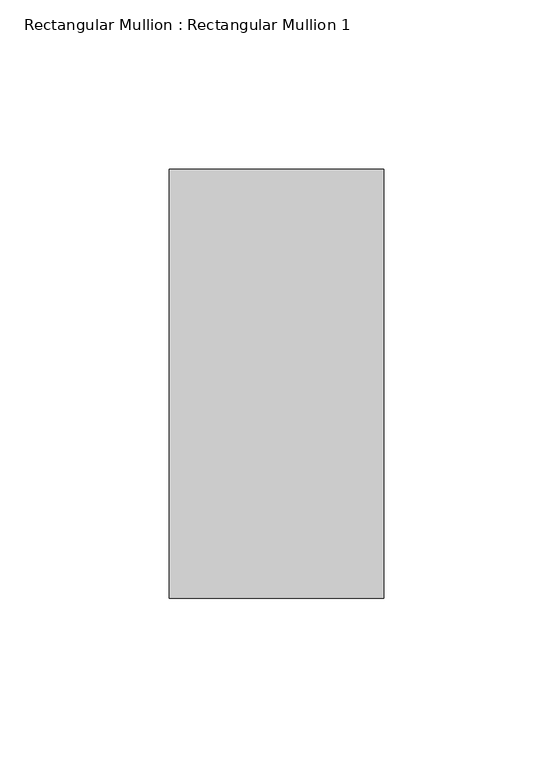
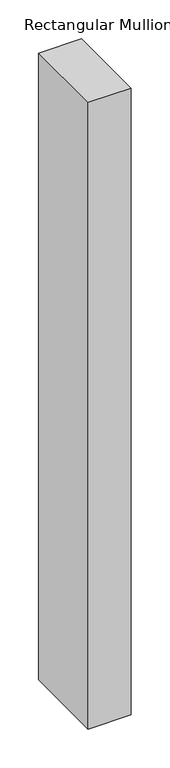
"""IFC4 building model written with IfcOpenShell, lengths in millimetres: member geometry, Rectangular Mullion : Rectangular Mullion 1."""

import ifcopenshell
import ifcopenshell.guid

model = None  # the IFC model being written
_history = None  # IfcOwnerHistory: only IFC2X3 demands one
_inside = {}  # id of a spatial element -> (the spatial element, [elements in it])
_under = {}  # id of a project, library or spatial element -> (it, [spatial elements below it])
_declared = {}  # id of a project -> (the project, [libraries it declares])
_typed = {}  # id of a type object -> (the type object, [elements of that type])
_made_of = {}  # id of a material, layer set ... -> (it, [elements and type objects made of it])


def new_model(schema):
    """Start an empty IFC model of exactly this schema.

    Asked for "IFC4X3", IfcOpenShell would pick the latest addendum, in which some entities
    have other attributes; the version numbers below select the first issue.
    IFC2X3 requires an IfcOwnerHistory on every rooted entity: one is made here for all.
    """
    global model, _history
    if schema == "IFC4X3":
        model = ifcopenshell.file(schema_version=(4, 3, 0, 0))
    else:
        model = ifcopenshell.file(schema=schema)
    _inside.clear()
    _under.clear()
    _declared.clear()
    _typed.clear()
    _made_of.clear()
    _history = None
    if model.schema == "IFC2X3":
        org = make("IfcOrganization", Name="unknown")
        user = make(
            "IfcPersonAndOrganization",
            ThePerson=make("IfcPerson", FamilyName="unknown"),
            TheOrganization=org,
        )
        app = make(
            "IfcApplication",
            ApplicationDeveloper=org,
            Version="unknown",
            ApplicationFullName="unknown",
            ApplicationIdentifier="unknown",
        )
        _history = make(
            "IfcOwnerHistory",
            OwningUser=user,
            OwningApplication=app,
            ChangeAction="ADDED",
            CreationDate=0,
        )
    return model


def make(cls, **values):
    """One entity of the class cls with the attributes given. An attribute that is None is left unset."""
    return model.create_entity(
        cls, **{name: value for name, value in values.items() if value is not None}
    )


def rooted(cls, **values):
    """An entity with a GlobalId (a new one), such as an element, a storey or a relation."""
    return make(cls, GlobalId=ifcopenshell.guid.new(), OwnerHistory=_history, **values)


def si_unit(unit_type, name, prefix=None):
    """IfcSIUnit, for example si_unit("LENGTHUNIT", "METRE", prefix="MILLI")."""
    return make("IfcSIUnit", UnitType=unit_type, Prefix=prefix, Name=name)


def assignment(units):
    """IfcUnitAssignment: the units of a project."""
    return None if units is None else make("IfcUnitAssignment", Units=units)


def point(xyz):
    """IfcCartesianPoint."""
    return None if xyz is None else make("IfcCartesianPoint", Coordinates=xyz)


def direction(xyz):
    """IfcDirection."""
    return None if xyz is None else make("IfcDirection", DirectionRatios=xyz)


def frame(location, z_axis=None, x_axis=None):
    """IfcAxis2Placement3D, a coordinate frame: its origin and axes. An axis left out is left unset."""
    return make(
        "IfcAxis2Placement3D",
        Location=point(location),
        Axis=direction(z_axis),
        RefDirection=direction(x_axis),
    )


def origin():
    """The frame at (0, 0, 0) with its axes left unset."""
    return frame((0.0, 0.0, 0.0))


def place(relative_to, where):
    """IfcLocalPlacement: puts the frame where relative to a parent placement (None: the world)."""
    return make(
        "IfcLocalPlacement", PlacementRelTo=relative_to, RelativePlacement=where
    )


def context(
    kind, dimensions, precision=None, world=None, true_north=None, identifier=None
):
    """IfcGeometricRepresentationContext, for example the 3D "Model" context."""
    return make(
        "IfcGeometricRepresentationContext",
        ContextIdentifier=identifier,
        ContextType=kind,
        CoordinateSpaceDimension=dimensions,
        Precision=precision,
        WorldCoordinateSystem=world,
        TrueNorth=true_north,
    )


def project(units=None, contexts=None):
    """IfcProject with its units and contexts."""
    return rooted(
        "IfcProject",
        Name="project",
        RepresentationContexts=contexts,
        UnitsInContext=assignment(units),
    )


def spatial(cls, under=None, at=None, **own):
    """A site, building, storey or space (cls), placed at a placement, below another one or the project."""
    s = rooted(cls, ObjectPlacement=at, **own)
    if under is not None:
        _under.setdefault(under.id(), (under, []))[1].append(s)
    return s


def polyline(points):
    """IfcPolyline through the points."""
    return make("IfcPolyline", Points=[point(p) for p in points])


def outline(outer, holes=None, kind="AREA"):
    """IfcArbitraryClosedProfileDef: a profile drawn as a closed curve; with holes, ...WithVoids."""
    if holes is None:
        return make("IfcArbitraryClosedProfileDef", ProfileType=kind, OuterCurve=outer)
    return make(
        "IfcArbitraryProfileDefWithVoids",
        ProfileType=kind,
        OuterCurve=outer,
        InnerCurves=holes,
    )


def extrude(swept, where, along, depth):
    """IfcExtrudedAreaSolid: the profile swept, set in the frame where, extruded along a direction by depth."""
    return make(
        "IfcExtrudedAreaSolid",
        SweptArea=swept,
        Position=where,
        ExtrudedDirection=direction(along),
        Depth=depth,
    )


def shape(context_of_items, identifier, shape_type, items):
    """IfcShapeRepresentation: the items that make up one representation, for example the "Body"."""
    return make(
        "IfcShapeRepresentation",
        ContextOfItems=context_of_items,
        RepresentationIdentifier=identifier,
        RepresentationType=shape_type,
        Items=items,
    )


def source(mapping_origin, context_of_items, identifier, shape_type, items):
    """IfcRepresentationMap: a shape defined once, which mapped items show again and again."""
    return make(
        "IfcRepresentationMap",
        MappingOrigin=mapping_origin,
        MappedRepresentation=shape(context_of_items, identifier, shape_type, items),
    )


def transform(
    local_origin,
    x_axis=None,
    y_axis=None,
    z_axis=None,
    scale=None,
    scale2=None,
    scale3=None,
    uniform=True,
):
    """IfcCartesianTransformationOperator3D, or its non-uniform kind. x_axis, y_axis, z_axis: its Axis1, 2, 3."""
    if uniform:
        return make(
            "IfcCartesianTransformationOperator3D",
            Axis1=direction(x_axis),
            Axis2=direction(y_axis),
            LocalOrigin=point(local_origin),
            Scale=scale,
            Axis3=direction(z_axis),
        )
    return make(
        "IfcCartesianTransformationOperator3DnonUniform",
        Axis1=direction(x_axis),
        Axis2=direction(y_axis),
        LocalOrigin=point(local_origin),
        Scale=scale,
        Axis3=direction(z_axis),
        Scale2=scale2,
        Scale3=scale3,
    )


def mapped(mapping_source, mapping_target):
    """IfcMappedItem: shows the shape of a source again, moved by a transform."""
    return make(
        "IfcMappedItem", MappingSource=mapping_source, MappingTarget=mapping_target
    )


def made_of(thing, what):
    """Note that an element or type object is made of a material, layer set ...; save() writes the relation."""
    if what is not None:
        _made_of.setdefault(what.id(), (what, []))[1].append(thing)
    return thing


def element(
    cls,
    number,
    at=None,
    inside=None,
    cuts=None,
    type_object=None,
    material=None,
    context=None,
    identifier="Body",
    shape_type=None,
    held_by="IfcProductDefinitionShape",
    body=None,
    shapes=None,
    **own,
):
    """One element of the class cls, such as IfcWall. Its Tag is "e" and its number.

    at: its placement. inside: the storey or other place that contains it. cuts: it is an
    opening in that element (IfcRelVoidsElement). A single representation is given by context,
    identifier, shape_type and body (its items); several are given by shapes. held_by: the class
    of the entity that holds the representations. save() writes the other relations.
    """
    e = rooted(cls, Tag="e%d" % number, ObjectPlacement=at, **own)
    if body is not None:
        shapes = [shape(context, identifier, shape_type, body)]
    if shapes is not None:
        e.Representation = make(held_by, Representations=shapes)
    if inside is not None:
        _inside.setdefault(inside.id(), (inside, []))[1].append(e)
    if cuts is not None:
        rooted(
            "IfcRelVoidsElement", RelatingBuildingElement=cuts, RelatedOpeningElement=e
        )
    if type_object is not None:
        _typed.setdefault(type_object.id(), (type_object, []))[1].append(e)
    return made_of(e, material)


def aggregate(whole, parts):
    """IfcRelAggregates: a whole, such as a stair, and the parts it consists of."""
    return rooted("IfcRelAggregates", RelatingObject=whole, RelatedObjects=parts)


def save(model, path):
    """Write the relations noted so far, then the file.

    IfcRelAggregates (storeys below a building ...), IfcRelContainedInSpatialStructure (elements
    in a storey), IfcRelDefinesByType, IfcRelAssociatesMaterial and IfcRelDeclares: one each for
    every whole, place, type object, material and project.
    """
    for whole, parts in _under.values():
        aggregate(whole, parts)
    for where, things in _inside.values():
        rooted(
            "IfcRelContainedInSpatialStructure",
            RelatedElements=things,
            RelatingStructure=where,
        )
    for kind, things in _typed.values():
        rooted("IfcRelDefinesByType", RelatedObjects=things, RelatingType=kind)
    for what, things in _made_of.values():
        rooted("IfcRelAssociatesMaterial", RelatedObjects=things, RelatingMaterial=what)
    for by, libraries in _declared.values():
        rooted("IfcRelDeclares", RelatingContext=by, RelatedDefinitions=libraries)
    model.write(path)


def rectangular_mullion_rectangular_mullion_1_7275bfda(model_context):
    return source(origin(), model_context, "Body", "SweptSolid", [
        extrude(outline(polyline([(0.0, 63.5), (0.0, -63.5), (-63.5, -63.5), (-63.5, 63.5), (0.0, 63.5)])), frame((0.0, 0.0, -981.9821429), z_axis=(0.0, 0.0, 1.0), x_axis=(1.0, 0.0, 0.0)), (0.0, 0.0, 1.0), 981.9821429),
    ])


if __name__ == "__main__":
    model = new_model("IFC4")
    model_context = context("Model", 3, world=origin())
    ifc_project = project(units=[si_unit("LENGTHUNIT", "METRE", prefix="MILLI")], contexts=[model_context])
    site = spatial("IfcSite", under=ifc_project)
    building = spatial("IfcBuilding", under=site)
    placement = place(None, origin())
    rectangular_mullion_rectangular_mullion_1_shape = rectangular_mullion_rectangular_mullion_1_7275bfda(model_context)
    element("IfcMember", 1, ObjectType="Rectangular Mullion : Rectangular Mullion 1", at=placement, inside=building, context=model_context, shape_type="MappedRepresentation", body=[
        mapped(rectangular_mullion_rectangular_mullion_1_shape, transform((0.0, 0.0, 0.0), x_axis=(1.0, 0.0, 0.0), y_axis=(0.0, 1.0, 0.0), z_axis=(0.0, 0.0, 1.0))),
    ])
    save(model, "model.ifc")
